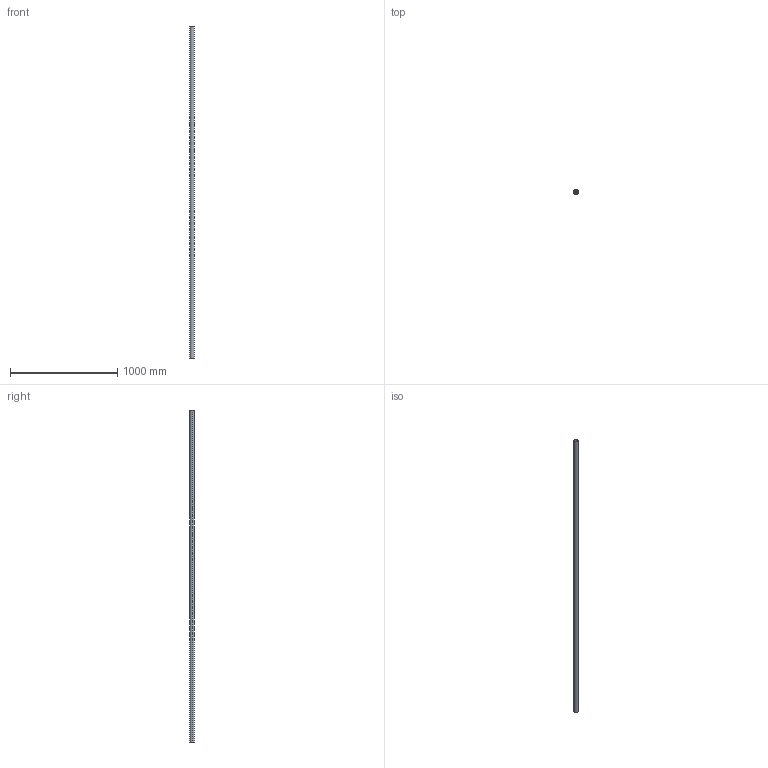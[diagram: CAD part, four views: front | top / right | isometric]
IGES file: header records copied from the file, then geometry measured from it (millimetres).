
Start section: SolidWorks IGES file using analytic representation for surfaces
Global section: file name: C:\Users\IanO\Desktop\L1771_v2\L1771.40_v2\L1771.40_v2_20230705_IGES\L1771.40-3100.igs; native system: SolidWorks 2019; preprocessor: SolidWorks 2019; author: IanO; date: 230705.161653; units: millimetre
Bounding box: 40 x 40 x 3100 mm (x, y, z)
Surface area: 663529.5 mm2 (no closed solid volume)
Topology: 0 solids, 0 shells, 6 faces, 272 edges, 272 vertices
Faces by surface type: revolution 4, bspline 2
